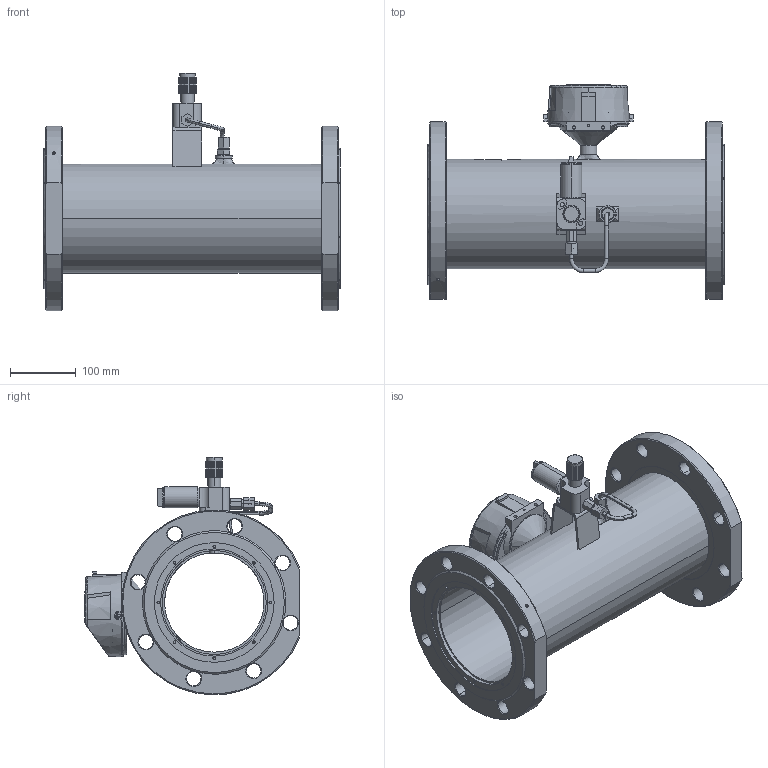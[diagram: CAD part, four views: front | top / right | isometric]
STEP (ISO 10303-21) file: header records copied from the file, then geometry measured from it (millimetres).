
FILE_DESCRIPTION((''),'2;1');
FILE_NAME('12345_04_ASM','2020-11-24T',('solovki'),(''),'CREO PARAMETRIC BY PTC INC, 2018360','CREO PARAMETRIC BY PTC INC, 2018360','');
FILE_SCHEMA(('AUTOMOTIVE_DESIGN { 1 0 10303 214 1 1 1 1 }'));
Length unit declared in the file: millimetre
Products named in the file (17): 202_AF3; 203_AF1; 204_AF1; 205_AF0; 206_AF0; 207_AF0; 207_AF1; 208_AF1; 201_AF1_ASM; 209; 210; 211; 212; 213; 214; 215; 12345_04_ASM
Assembly tree (18 placements, depth 3):
  12345_04_ASM
    201_AF1_ASM
      202_AF3
      203_AF1
      204_AF1
      205_AF0
      206_AF0
      207_AF0
      207_AF1
      208_AF1
    209
    210
    211  x2
    212
    213  x2
    214
    215
Bounding box: 450 x 326.54 x 361.33 mm (x, y, z)
Volume: 3976684.5 mm3; surface area: 870385.4 mm2
Topology: 17 solids, 38 shells, 840 faces, 2070 edges, 1287 vertices
Faces by surface type: cylinder 348, plane 260, cone 169, bspline 26, sphere 22, torus 15
Entity records: 38260 total; most frequent: CARTESIAN_POINT 6807, DIRECTION 4228, ORIENTED_EDGE 3744, PRESENTATION_STYLE_ASSIGNMENT 2727, STYLED_ITEM 2727, CURVE_STYLE 1930, EDGE_CURVE 1930, AXIS2_PLACEMENT_3D 1679
